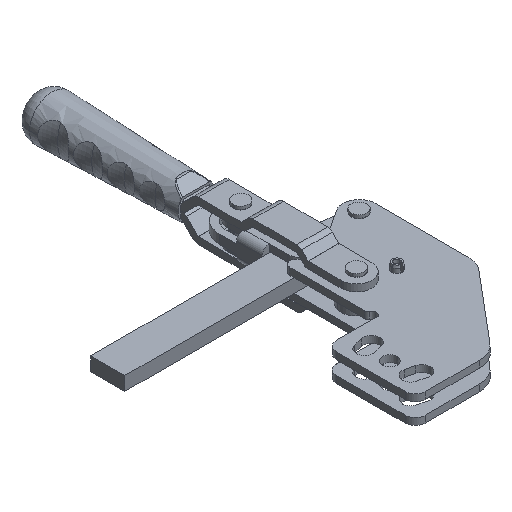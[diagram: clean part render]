
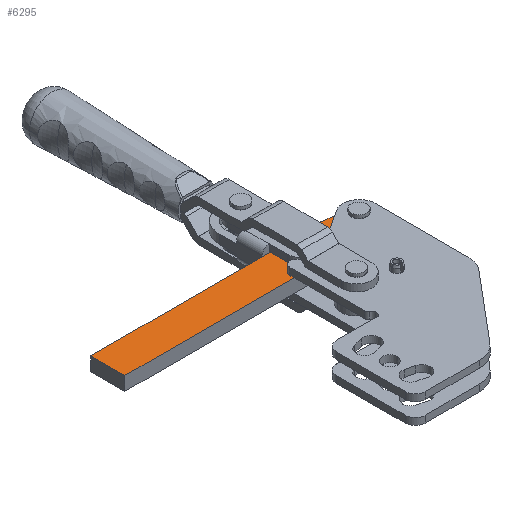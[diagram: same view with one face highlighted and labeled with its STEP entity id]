
A CAD part, isometric view. The second image highlights one B-rep face of the part: STEP entity #6295.
In plain terms, the highlighted planar face has unit normal (0, 0, 1).
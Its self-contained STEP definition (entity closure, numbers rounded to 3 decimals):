
#144 = VERTEX_POINT ( 'NONE', #3704 ) ;
#251 = CARTESIAN_POINT ( 'NONE',  ( 9.5, 0., 0. ) ) ;
#433 = CARTESIAN_POINT ( 'NONE',  ( -23.321, -11.388, 0. ) ) ;
#535 = VERTEX_POINT ( 'NONE', #9987 ) ;
#653 = DIRECTION ( 'NONE',  ( 1., 0., 0. ) ) ;
#1067 = CARTESIAN_POINT ( 'NONE',  ( -29., 0., 0. ) ) ;
#1189 = AXIS2_PLACEMENT_3D ( 'NONE', #6830, #16469, #13046 ) ;
#1237 = VERTEX_POINT ( 'NONE', #4092 ) ;
#1384 = CARTESIAN_POINT ( 'NONE',  ( -34., 0., 0. ) ) ;
#1577 = ORIENTED_EDGE ( 'NONE', *, *, #10257, .F. ) ;
#1610 = FACE_BOUND ( 'NONE', #21081, .T. ) ;
#1786 = EDGE_CURVE ( 'NONE', #10657, #2648, #8786, .T. ) ;
#1802 = VERTEX_POINT ( 'NONE', #1067 ) ;
#1864 = VECTOR ( 'NONE', #4241, 1000. ) ;
#1944 = VERTEX_POINT ( 'NONE', #16477 ) ;
#2165 = CIRCLE ( 'NONE', #12435, 5. ) ;
#2363 = DIRECTION ( 'NONE',  ( 0., 0., 1. ) ) ;
#2393 = EDGE_LOOP ( 'NONE', ( #19903, #18820, #18567, #6921, #6047, #16375, #6090, #6666, #5497, #4014, #6678 ) ) ;
#2451 = DIRECTION ( 'NONE',  ( 0., 0., 1. ) ) ;
#2462 = VERTEX_POINT ( 'NONE', #9036 ) ;
#2501 = LINE ( 'NONE', #20290, #2900 ) ;
#2529 = CARTESIAN_POINT ( 'NONE',  ( 0., 0., 0. ) ) ;
#2648 = VERTEX_POINT ( 'NONE', #9993 ) ;
#2900 = VECTOR ( 'NONE', #15249, 1000. ) ;
#3164 = CARTESIAN_POINT ( 'NONE',  ( -5., 0., 0. ) ) ;
#3704 = CARTESIAN_POINT ( 'NONE',  ( 0.754, -9.47, 0. ) ) ;
#3723 = EDGE_CURVE ( 'NONE', #8191, #13292, #5713, .T. ) ;
#3827 = VERTEX_POINT ( 'NONE', #3164 ) ;
#4014 = ORIENTED_EDGE ( 'NONE', *, *, #1786, .T. ) ;
#4092 = CARTESIAN_POINT ( 'NONE',  ( 5., 0., 0. ) ) ;
#4241 = DIRECTION ( 'NONE',  ( 0., 1., 0. ) ) ;
#4272 = CIRCLE ( 'NONE', #1189, 7. ) ;
#4275 = CARTESIAN_POINT ( 'NONE',  ( -30., 17., 0. ) ) ;
#4445 = CARTESIAN_POINT ( 'NONE',  ( 0., 0., 0. ) ) ;
#4496 = DIRECTION ( 'NONE',  ( 0., 0., 1. ) ) ;
#5012 = LINE ( 'NONE', #20524, #1864 ) ;
#5270 = AXIS2_PLACEMENT_3D ( 'NONE', #17858, #19573, #6504 ) ;
#5365 = CARTESIAN_POINT ( 'NONE',  ( 0., 0., 0. ) ) ;
#5387 = CARTESIAN_POINT ( 'NONE',  ( 0., 0., 0. ) ) ;
#5497 = ORIENTED_EDGE ( 'NONE', *, *, #8025, .T. ) ;
#5713 = CIRCLE ( 'NONE', #8459, 9.5 ) ;
#5725 = DIRECTION ( 'NONE',  ( 1., 0., 0. ) ) ;
#5848 = DIRECTION ( 'NONE',  ( 1., 0., 0. ) ) ;
#5858 = EDGE_LOOP ( 'NONE', ( #15643, #1577 ) ) ;
#6047 = ORIENTED_EDGE ( 'NONE', *, *, #11596, .T. ) ;
#6090 = ORIENTED_EDGE ( 'NONE', *, *, #3723, .T. ) ;
#6217 = FACE_OUTER_BOUND ( 'NONE', #2393, .T. ) ;
#6258 = DIRECTION ( 'NONE',  ( 0., 0., 1. ) ) ;
#6295 = ADVANCED_FACE ( 'NONE', ( #20890, #1610, #6217 ), #8154, .T. ) ;
#6330 = CARTESIAN_POINT ( 'NONE',  ( -39., 0., 0. ) ) ;
#6504 = DIRECTION ( 'NONE',  ( 1., 0., 0. ) ) ;
#6514 = DIRECTION ( 'NONE',  ( -1., 0., 0. ) ) ;
#6607 = EDGE_CURVE ( 'NONE', #16138, #19474, #20880, .T. ) ;
#6664 = AXIS2_PLACEMENT_3D ( 'NONE', #2529, #20526, #5848 ) ;
#6666 = ORIENTED_EDGE ( 'NONE', *, *, #13878, .T. ) ;
#6678 = ORIENTED_EDGE ( 'NONE', *, *, #14280, .T. ) ;
#6830 = CARTESIAN_POINT ( 'NONE',  ( -30., -17., 0. ) ) ;
#6921 = ORIENTED_EDGE ( 'NONE', *, *, #6607, .T. ) ;
#7059 = CARTESIAN_POINT ( 'NONE',  ( -26.938, 10.705, 0. ) ) ;
#7060 = VECTOR ( 'NONE', #12422, 1000. ) ;
#7823 = LINE ( 'NONE', #17237, #7060 ) ;
#7913 = DIRECTION ( 'NONE',  ( 1., 0., 0. ) ) ;
#7927 = DIRECTION ( 'NONE',  ( 1., 0., 0. ) ) ;
#8008 = VERTEX_POINT ( 'NONE', #17613 ) ;
#8025 = EDGE_CURVE ( 'NONE', #8008, #10657, #18168, .T. ) ;
#8154 = PLANE ( 'NONE',  #14909 ) ;
#8191 = VERTEX_POINT ( 'NONE', #251 ) ;
#8309 = ORIENTED_EDGE ( 'NONE', *, *, #14154, .F. ) ;
#8435 = AXIS2_PLACEMENT_3D ( 'NONE', #4275, #15741, #15955 ) ;
#8459 = AXIS2_PLACEMENT_3D ( 'NONE', #4445, #9173, #5725 ) ;
#8647 = EDGE_CURVE ( 'NONE', #1237, #3827, #19916, .T. ) ;
#8733 = VECTOR ( 'NONE', #6514, 1000. ) ;
#8786 = CIRCLE ( 'NONE', #8435, 7. ) ;
#9036 = CARTESIAN_POINT ( 'NONE',  ( -30., -10., 0. ) ) ;
#9091 = AXIS2_PLACEMENT_3D ( 'NONE', #1384, #4496, #7927 ) ;
#9173 = DIRECTION ( 'NONE',  ( 0., 0., 1. ) ) ;
#9697 = CARTESIAN_POINT ( 'NONE',  ( -23.321, 11.388, 0. ) ) ;
#9704 = DIRECTION ( 'NONE',  ( -1., 0., 0. ) ) ;
#9987 = CARTESIAN_POINT ( 'NONE',  ( -147., -10., 0. ) ) ;
#9993 = CARTESIAN_POINT ( 'NONE',  ( -30., 10., 0. ) ) ;
#10075 = CIRCLE ( 'NONE', #5270, 5. ) ;
#10122 = DIRECTION ( 'NONE',  ( 1., 0., 0. ) ) ;
#10257 = EDGE_CURVE ( 'NONE', #3827, #1237, #2165, .T. ) ;
#10277 = CARTESIAN_POINT ( 'NONE',  ( -248., 10., 0. ) ) ;
#10657 = VERTEX_POINT ( 'NONE', #7059 ) ;
#10986 = EDGE_CURVE ( 'NONE', #1802, #17839, #10075, .T. ) ;
#11222 = CARTESIAN_POINT ( 'NONE',  ( 0.754, 9.47, 0. ) ) ;
#11402 = DIRECTION ( 'NONE',  ( -0.997, 0.079, 0. ) ) ;
#11596 = EDGE_CURVE ( 'NONE', #19474, #144, #2501, .T. ) ;
#11600 = LINE ( 'NONE', #9697, #21030 ) ;
#12422 = DIRECTION ( 'NONE',  ( 1., 0., 0. ) ) ;
#12435 = AXIS2_PLACEMENT_3D ( 'NONE', #5365, #2363, #653 ) ;
#12755 = CARTESIAN_POINT ( 'NONE',  ( -30., -17., 0. ) ) ;
#13007 = CARTESIAN_POINT ( 'NONE',  ( -23.877, 4.41, 0. ) ) ;
#13046 = DIRECTION ( 'NONE',  ( 1., 0., 0. ) ) ;
#13151 = LINE ( 'NONE', #10277, #8733 ) ;
#13292 = VERTEX_POINT ( 'NONE', #11222 ) ;
#13752 = AXIS2_PLACEMENT_3D ( 'NONE', #5387, #19959, #10122 ) ;
#13878 = EDGE_CURVE ( 'NONE', #13292, #8008, #11600, .T. ) ;
#14118 = DIRECTION ( 'NONE',  ( 0., 0., 1. ) ) ;
#14154 = EDGE_CURVE ( 'NONE', #17839, #1802, #14199, .T. ) ;
#14199 = CIRCLE ( 'NONE', #9091, 5. ) ;
#14280 = EDGE_CURVE ( 'NONE', #2648, #1944, #13151, .T. ) ;
#14427 = EDGE_CURVE ( 'NONE', #144, #8191, #20003, .T. ) ;
#14440 = AXIS2_PLACEMENT_3D ( 'NONE', #13007, #6258, #9704 ) ;
#14542 = CARTESIAN_POINT ( 'NONE',  ( -23.877, -4.41, 0. ) ) ;
#14909 = AXIS2_PLACEMENT_3D ( 'NONE', #12755, #2451, #17460 ) ;
#15249 = DIRECTION ( 'NONE',  ( 0.997, 0.079, 0. ) ) ;
#15643 = ORIENTED_EDGE ( 'NONE', *, *, #8647, .F. ) ;
#15741 = DIRECTION ( 'NONE',  ( 0., 0., -1. ) ) ;
#15806 = CARTESIAN_POINT ( 'NONE',  ( -26.938, -10.705, 0. ) ) ;
#15955 = DIRECTION ( 'NONE',  ( -1., 0., 0. ) ) ;
#15973 = EDGE_CURVE ( 'NONE', #535, #2462, #7823, .T. ) ;
#16138 = VERTEX_POINT ( 'NONE', #15806 ) ;
#16375 = ORIENTED_EDGE ( 'NONE', *, *, #14427, .T. ) ;
#16469 = DIRECTION ( 'NONE',  ( 0., 0., -1. ) ) ;
#16477 = CARTESIAN_POINT ( 'NONE',  ( -147., 10., 0. ) ) ;
#17237 = CARTESIAN_POINT ( 'NONE',  ( -248., -10., 0. ) ) ;
#17460 = DIRECTION ( 'NONE',  ( 1., 0., 0. ) ) ;
#17613 = CARTESIAN_POINT ( 'NONE',  ( -23.321, 11.388, 0. ) ) ;
#17839 = VERTEX_POINT ( 'NONE', #6330 ) ;
#17858 = CARTESIAN_POINT ( 'NONE',  ( -34., 0., 0. ) ) ;
#18168 = CIRCLE ( 'NONE', #14440, 7. ) ;
#18476 = EDGE_CURVE ( 'NONE', #2462, #16138, #4272, .T. ) ;
#18567 = ORIENTED_EDGE ( 'NONE', *, *, #18476, .T. ) ;
#18569 = EDGE_CURVE ( 'NONE', #535, #1944, #5012, .T. ) ;
#18820 = ORIENTED_EDGE ( 'NONE', *, *, #15973, .T. ) ;
#19474 = VERTEX_POINT ( 'NONE', #433 ) ;
#19503 = AXIS2_PLACEMENT_3D ( 'NONE', #14542, #14118, #7913 ) ;
#19573 = DIRECTION ( 'NONE',  ( 0., 0., 1. ) ) ;
#19903 = ORIENTED_EDGE ( 'NONE', *, *, #18569, .F. ) ;
#19916 = CIRCLE ( 'NONE', #13752, 5. ) ;
#19959 = DIRECTION ( 'NONE',  ( 0., 0., 1. ) ) ;
#20003 = CIRCLE ( 'NONE', #6664, 9.5 ) ;
#20290 = CARTESIAN_POINT ( 'NONE',  ( -23.321, -11.388, 0. ) ) ;
#20524 = CARTESIAN_POINT ( 'NONE',  ( -147., -17., 0. ) ) ;
#20526 = DIRECTION ( 'NONE',  ( 0., 0., 1. ) ) ;
#20594 = ORIENTED_EDGE ( 'NONE', *, *, #10986, .F. ) ;
#20880 = CIRCLE ( 'NONE', #19503, 7. ) ;
#20890 = FACE_BOUND ( 'NONE', #5858, .T. ) ;
#21030 = VECTOR ( 'NONE', #11402, 1000. ) ;
#21081 = EDGE_LOOP ( 'NONE', ( #20594, #8309 ) ) ;
